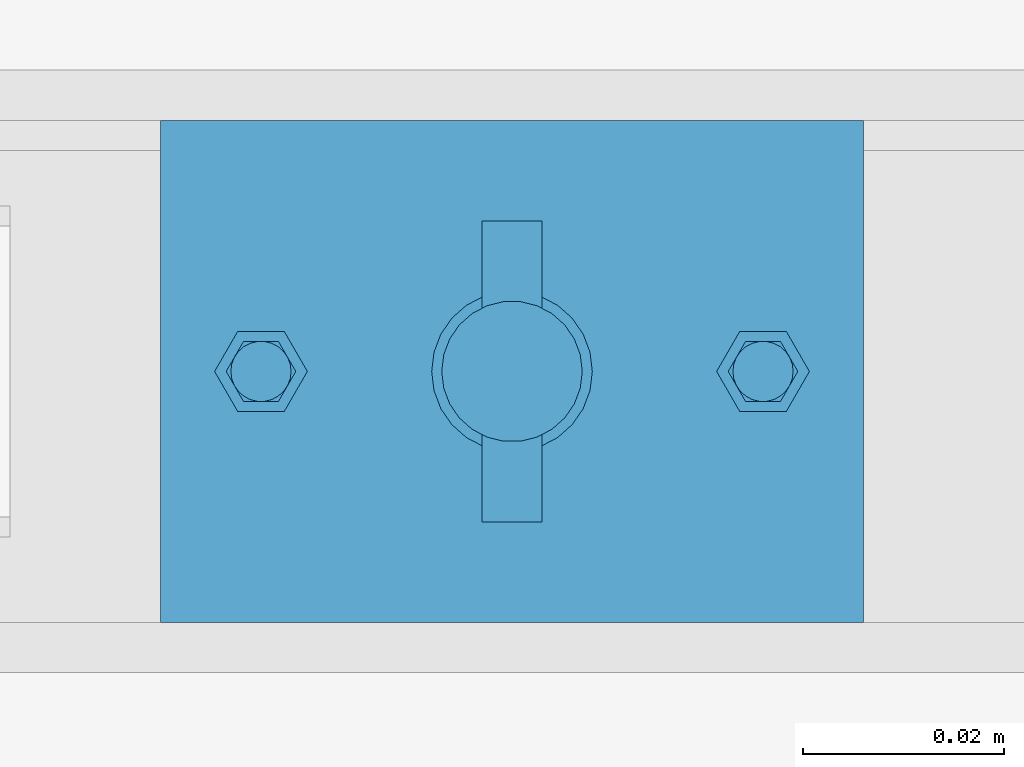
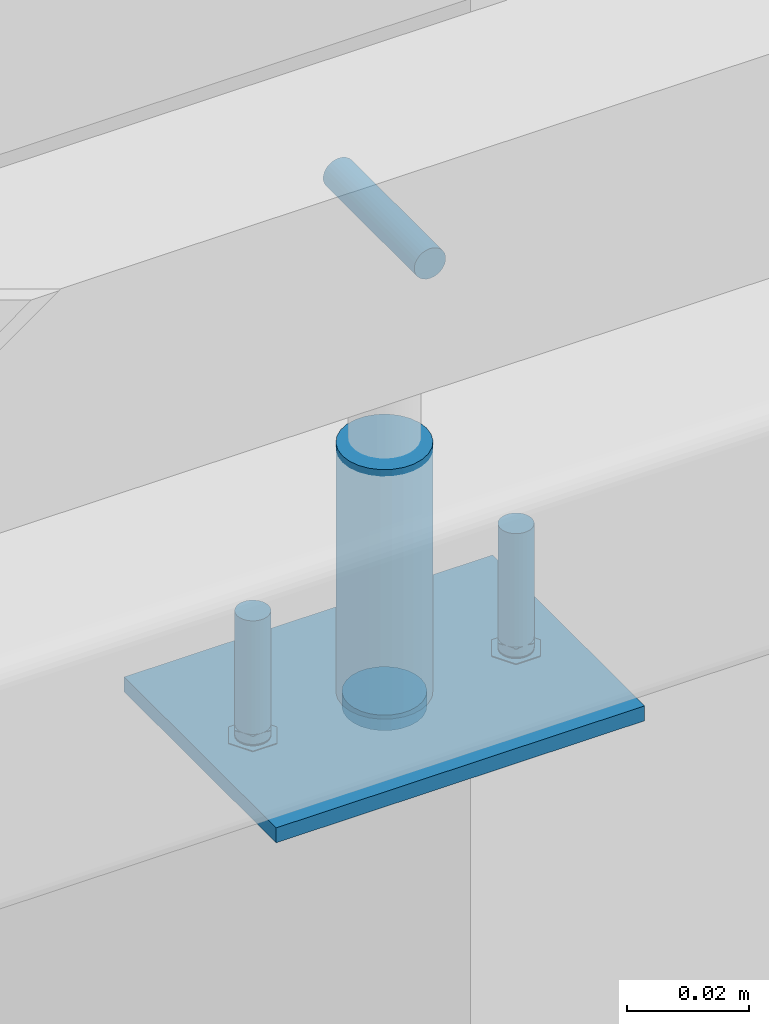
# One storey, part 44 of 91: 6 mechanical fasteners, 2 discrete accessories, 2 elements without a shape of their own.
"""IFC2X3 building model written with IfcOpenShell, lengths in millimetres."""

from ifc_helpers import new_model, si_unit, frame, origin_with_axes, origin_2d_with_axis, place, context, subcontext, project, spatial, polyline, circle, outline, extrude, source, transform, mapped, material, type_object, element, aggregate, save


model = new_model("IFC2X3")

# Units and contexts
model_context = context("Model", 3, precision=1e-05, world=origin_with_axes())
body_context = subcontext(model_context, "Body", "Model", "MODEL_VIEW")
ifc_project = project(units=[si_unit("LENGTHUNIT", "METRE", prefix="MILLI"), si_unit("AREAUNIT", "SQUARE_METRE"), si_unit("VOLUMEUNIT", "CUBIC_METRE"), si_unit("MASSUNIT", "GRAM", prefix="KILO"), si_unit("TIMEUNIT", "SECOND"), si_unit("PLANEANGLEUNIT", "RADIAN"), si_unit("SOLIDANGLEUNIT", "STERADIAN"), si_unit("THERMODYNAMICTEMPERATUREUNIT", "DEGREE_CELSIUS"), si_unit("LUMINOUSINTENSITYUNIT", "LUMEN")], contexts=[model_context])

# Site, building, storey
site_placement = place(None, origin_with_axes())
site = spatial("IfcSite", under=ifc_project, at=site_placement, Name="Undefined", CompositionType="ELEMENT")
building_placement = place(site_placement, origin_with_axes())
building = spatial("IfcBuilding", under=site, at=building_placement, Name="Undefined", CompositionType="ELEMENT")
storey_placement = place(building_placement, origin_with_axes())
storey = spatial("IfcBuildingStorey", under=building, at=storey_placement, Name="Undefined", CompositionType="ELEMENT", Elevation=0.0)

# Assembly, discrete accessory, mechanical fasteners
assembly_1_placement = place(storey_placement, origin_with_axes())
assembly_1 = element("IfcElementAssembly", 1, at=assembly_1_placement, inside=storey, Name="ROD", AssemblyPlace="NOTDEFINED", PredefinedType="RIGID_FRAME")
ifc_material_1 = material(Name="STEEL/250")
discrete_accessory_type_1 = type_object("IfcDiscreteAccessoryType", Name="PLATE")
discrete_accessory_1_placement = place(assembly_1_placement, frame((-110930.84, 84643.15, 3324.5), z_axis=(0.0, 0.0, 1.0), x_axis=(0.0, -1.0, 0.0)))
discrete_accessory_1 = element("IfcDiscreteAccessory", 2, at=discrete_accessory_1_placement, type_object=discrete_accessory_type_1, material=ifc_material_1, Name="PLATE", ObjectType="PLT3*50", context=body_context, shape_type="SweptSolid", body=[
    extrude(outline(polyline([(0.0, 0.0), (50.0, 0.0), (50.0, 70.0), (0.0, 70.0), (0.0, 0.0)])), frame((0.0, 0.0, -1.5), z_axis=(0.0, 0.0, 1.0), x_axis=(1.0, 0.0, 0.0)), (0.0, 0.0, 1.0), 3.0),
])
ifc_material_2 = material(Name="8.8S")
discrete_accessory_type_2 = type_object("IfcDiscreteAccessoryType", Name="Bolt assembly")
shared_shape_1 = source(origin_with_axes(), body_context, "Body", "SweptSolid", [
    extrude(circle(Radius=3.0, at=origin_2d_with_axis()), frame((0.0, -1.0, 0.0), z_axis=(0.0, 1.0, 0.0), x_axis=(1.0, 0.0, 0.0)), (0.0, 0.0, 1.0), 3.1),
])
mechanical_fastener_1_placement = place(assembly_1_placement, frame((-110870.84, 84618.15, 3324.0), z_axis=(0.0, 1.0, 0.0), x_axis=(-1.0, 0.0, 0.0)))
mechanical_fastener_1 = element("IfcMechanicalFastener", 3, at=mechanical_fastener_1_placement, type_object=discrete_accessory_type_2, material=ifc_material_2, Name="Bolt assembly", NominalDiameter=6.0, NominalLength=3.0, context=body_context, shape_type="MappedRepresentation", body=[
    mapped(shared_shape_1, transform((0.0, 0.0, 0.0))),
])
mechanical_fastener_2_placement = place(assembly_1_placement, frame((-110920.84, 84618.15, 3324.0), z_axis=(0.0, -1.0, 0.0), x_axis=(1.0, 0.0, 0.0)))
mechanical_fastener_2 = element("IfcMechanicalFastener", 4, at=mechanical_fastener_2_placement, type_object=discrete_accessory_type_2, material=ifc_material_2, Name="Bolt assembly", NominalDiameter=6.0, NominalLength=3.0, context=body_context, shape_type="MappedRepresentation", body=[
    mapped(shared_shape_1, transform((0.0, 0.0, 0.0))),
])
shared_shape_2 = source(origin_with_axes(), body_context, "Body", "SweptSolid", [
    extrude(circle(Radius=7.0, at=origin_2d_with_axis()), frame((0.0, -1.0, 0.0), z_axis=(0.0, 1.0, 0.0), x_axis=(1.0, 0.0, 0.0)), (0.0, 0.0, 1.0), 3.1),
])
mechanical_fastener_3_placement = place(assembly_1_placement, frame((-110895.84, 84618.15, 3324.0), z_axis=(0.0, -1.0, 0.0), x_axis=(1.0, 0.0, 0.0)))
mechanical_fastener_3 = element("IfcMechanicalFastener", 5, at=mechanical_fastener_3_placement, type_object=discrete_accessory_type_2, material=ifc_material_2, Name="Bolt assembly", NominalDiameter=12.0, NominalLength=3.0, context=body_context, shape_type="MappedRepresentation", body=[
    mapped(shared_shape_2, transform((0.0, 0.0, 0.0))),
])

# Assembly, mechanical fasteners
assembly_2_placement = place(storey_placement, origin_with_axes())
assembly_2 = element("IfcElementAssembly", 6, at=assembly_2_placement, inside=storey, Name="SLIDING DOOR", AssemblyPlace="NOTDEFINED", PredefinedType="RIGID_FRAME")
ifc_material_3 = material(Name="TEK_11TPIM")
shared_shape_3 = source(origin_with_axes(), body_context, "Body", "SweptSolid", [
    extrude(circle(Radius=3.0, at=origin_2d_with_axis()), frame((0.0, 0.0, 0.0), z_axis=(0.0, 1.0, 0.0), x_axis=(1.0, 0.0, 0.0)), (0.0, 0.0, 1.0), 2.1),
    extrude(outline(polyline([(4.61880215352, 0.0), (2.30940107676, 4.00000000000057), (-2.30940107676, 4.00000000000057), (-4.61880215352, 0.0), (-2.30940107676, -4.00000000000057), (2.30940107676, -4.00000000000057), (4.61880215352, 0.0)])), frame((0.0, -5.0, 0.0), z_axis=(0.0, 1.0, 0.0), x_axis=(1.0, 0.0, 0.0)), (0.0, 0.0, 1.0), 5.0),
    extrude(circle(Radius=3.0, at=origin_2d_with_axis()), frame((0.0, 0.0, 0.0), z_axis=(0.0, 1.0, 0.0), x_axis=(1.0, 0.0, 0.0)), (0.0, 0.0, 1.0), 25.0),
    extrude(circle(Radius=3.0, at=origin_2d_with_axis()), frame((0.0, 2.00000000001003, 0.0), z_axis=(0.0, 1.0, 0.0), x_axis=(1.0, 0.0, 0.0)), (0.0, 0.0, 1.0), 0.1),
    extrude(outline(polyline([(3.46410161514, 0.0), (1.73205080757, 3.00000000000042), (-1.73205080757, 3.00000000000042), (-3.46410161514, 0.0), (-1.73205080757, -3.00000000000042), (1.73205080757, -3.00000000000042), (3.46410161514, 0.0)])), frame((0.0, 2.10000000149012, 0.0), z_axis=(0.0, 1.0, 0.0), x_axis=(1.0, 0.0, 0.0)), (0.0, 0.0, 1.0), 0.1),
])
mechanical_fastener_4_placement = place(assembly_2_placement, frame((-110870.84, 84618.15, 3326.0), z_axis=(0.0, 1.0, 0.0), x_axis=(-1.0, 0.0, 0.0)))
mechanical_fastener_4 = element("IfcMechanicalFastener", 7, at=mechanical_fastener_4_placement, type_object=discrete_accessory_type_2, material=ifc_material_3, Name="Bolt assembly", NominalDiameter=6.0, NominalLength=25.0, context=body_context, shape_type="MappedRepresentation", body=[
    mapped(shared_shape_3, transform((0.0, 0.0, 0.0))),
])
mechanical_fastener_5_placement = place(assembly_2_placement, frame((-110920.84, 84618.15, 3326.0), z_axis=(0.0, -1.0, 0.0), x_axis=(1.0, 0.0, 0.0)))
mechanical_fastener_5 = element("IfcMechanicalFastener", 8, at=mechanical_fastener_5_placement, type_object=discrete_accessory_type_2, material=ifc_material_3, Name="Bolt assembly", NominalDiameter=6.0, NominalLength=25.0, context=body_context, shape_type="MappedRepresentation", body=[
    mapped(shared_shape_3, transform((0.0, 0.0, 0.0))),
])
shared_shape_4 = source(origin_with_axes(), body_context, "Body", "SweptSolid", [
    extrude(circle(Radius=8.0, at=origin_2d_with_axis()), frame((0.0, 0.0, 0.0), z_axis=(0.0, 1.0, 0.0), x_axis=(1.0, 0.0, 0.0)), (0.0, 0.0, 1.0), 50.1),
])
mechanical_fastener_6_placement = place(assembly_2_placement, frame((-110895.84, 84618.15, 3326.0), z_axis=(0.0, 1.0, 0.0), x_axis=(-1.0, 0.0, 0.0)))
mechanical_fastener_6 = element("IfcMechanicalFastener", 9, at=mechanical_fastener_6_placement, type_object=discrete_accessory_type_2, material=ifc_material_2, Name="Bolt assembly", NominalDiameter=10.0, NominalLength=50.0, context=body_context, shape_type="MappedRepresentation", body=[
    mapped(shared_shape_4, transform((0.0, 0.0, 0.0))),
])
aggregate(assembly_2, [mechanical_fastener_4, mechanical_fastener_5, mechanical_fastener_6])

# Discrete accessory
discrete_accessory_type_3 = type_object("IfcDiscreteAccessoryType", Name="SPRING PIN")
discrete_accessory_2_placement = place(assembly_1_placement, frame((-110895.84, 84603.15, 3421.0), z_axis=(1.0, 0.0, 0.0), x_axis=(0.0, 1.0, 0.0)))
discrete_accessory_2 = element("IfcDiscreteAccessory", 10, at=discrete_accessory_2_placement, type_object=discrete_accessory_type_3, material=ifc_material_1, Name="SPRING PIN", ObjectType="D6", context=body_context, shape_type="SweptSolid", body=[
    extrude(circle(Radius=3.0, at=origin_2d_with_axis()), frame((30.0, 0.0, 0.0), z_axis=(-1.0, 0.0, 0.0), x_axis=(0.0, -1.0, 0.0)), (0.0, 0.0, 1.0), 30.0),
])

aggregate(assembly_1, [mechanical_fastener_1, mechanical_fastener_2, mechanical_fastener_3, discrete_accessory_2, discrete_accessory_1])

save(model, "model.ifc")
